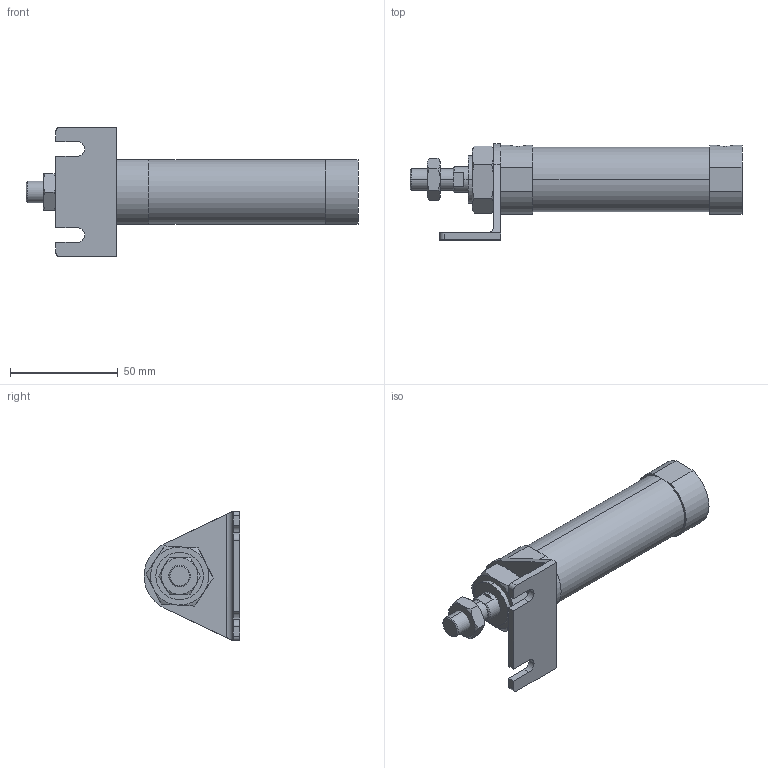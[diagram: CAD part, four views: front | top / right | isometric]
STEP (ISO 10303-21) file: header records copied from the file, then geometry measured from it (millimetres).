
FILE_DESCRIPTION (( 'STEP AP203' ), '1' );
FILE_NAME ('JGND2-25-50-L.STEP', '2016-08-04T02:36:00', ( '' ), ( '' ), 'SwSTEP 2.0', 'SolidWorks 2014', '' );
FILE_SCHEMA (( 'CONFIG_CONTROL_DESIGN' ));
Length unit declared in the file: millimetre
Products named in the file (5): J#2-25-L; J#2-25-50(P); JGND2-25-50-L
Assembly tree (4 placements, depth 2):
  JGND2-25-50-L
    J#2-25-50(P)
    (unnamed)
    (unnamed)
    J#2-25-L
Bounding box: 154 x 44.5 x 60 mm (x, y, z)
Volume: 100090.9 mm3; surface area: 25127 mm2
Topology: 4 solids, 4 shells, 115 faces, 268 edges, 162 vertices
Faces by surface type: plane 50, cylinder 33, torus 24, cone 8
Entity records: 4077 total; most frequent: CARTESIAN_POINT 994, DIRECTION 542, ORIENTED_EDGE 528, EDGE_CURVE 264, AXIS2_PLACEMENT_3D 214, VERTEX_POINT 162, EDGE_LOOP 126, FACE_OUTER_BOUND 115
